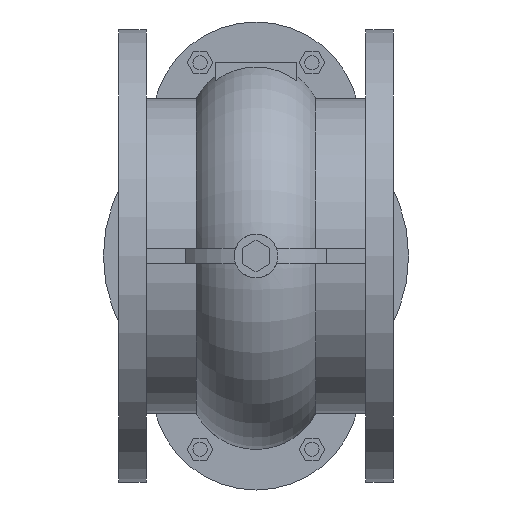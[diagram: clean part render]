
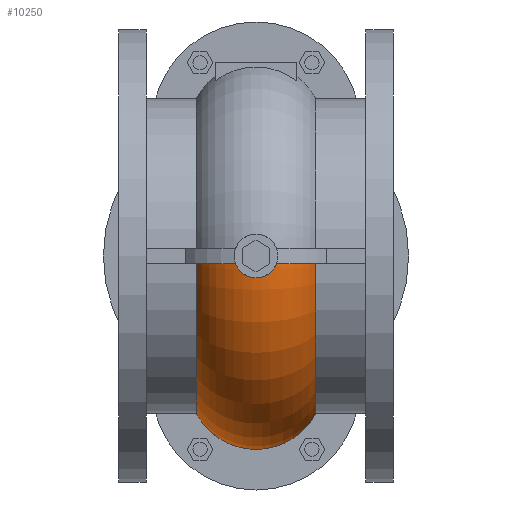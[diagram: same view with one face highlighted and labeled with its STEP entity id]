
A CAD part, front view. The second image highlights one B-rep face of the part: STEP entity #10250.
In plain terms, the highlighted toroidal (fillet/blend) face has major radius 123.5 mm and minor radius 66.5 mm.
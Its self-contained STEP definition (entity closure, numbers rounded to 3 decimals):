
#130=TOROIDAL_SURFACE('',#10864,123.5,66.5);
#280=B_SPLINE_CURVE_WITH_KNOTS('',3,(#14114,#14115,#14116,#14117,#14118,
#14119,#14120,#14121,#14122,#14123,#14124,#14125,#14126,#14127,#14128,#14129,
#14130,#14131,#14132,#14133),.UNSPECIFIED.,.F.,.F.,(4,2,2,2,2,2,2,2,2,4),
(-6.797,-6.563,-5.77,-4.996,
-4.153,-3.326,-2.489,-1.628,
-0.791,0.),.UNSPECIFIED.);
#615=CIRCLE('',#10865,66.5);
#616=CIRCLE('',#10866,155.);
#617=CIRCLE('',#10867,66.5);
#618=CIRCLE('',#10868,155.);
#619=CIRCLE('',#10869,66.5);
#809=FACE_OUTER_BOUND('',#1388,.T.);
#1388=EDGE_LOOP('',(#6541,#6542,#6543,#6544,#6545,#6546));
#4041=VERTEX_POINT('',#13918);
#4044=VERTEX_POINT('',#13926);
#4058=VERTEX_POINT('',#13967);
#4060=VERTEX_POINT('',#13979);
#4097=VERTEX_POINT('',#14108);
#4098=VERTEX_POINT('',#14110);
#5060=EDGE_CURVE('',#4058,#4041,#615,.T.);
#5061=EDGE_CURVE('',#4097,#4041,#616,.T.);
#5062=EDGE_CURVE('',#4097,#4098,#617,.T.);
#5063=EDGE_CURVE('',#4044,#4098,#618,.T.);
#5064=EDGE_CURVE('',#4044,#4060,#619,.T.);
#5065=EDGE_CURVE('',#4060,#4058,#280,.T.);
#6541=ORIENTED_EDGE('',*,*,#5060,.T.);
#6542=ORIENTED_EDGE('',*,*,#5061,.F.);
#6543=ORIENTED_EDGE('',*,*,#5062,.T.);
#6544=ORIENTED_EDGE('',*,*,#5063,.F.);
#6545=ORIENTED_EDGE('',*,*,#5064,.T.);
#6546=ORIENTED_EDGE('',*,*,#5065,.T.);
#10250=ADVANCED_FACE('',(#809),#130,.T.);
#10864=AXIS2_PLACEMENT_3D('',#14106,#11653,#11654);
#10865=AXIS2_PLACEMENT_3D('',#14107,#11655,#11656);
#10866=AXIS2_PLACEMENT_3D('',#14109,#11657,#11658);
#10867=AXIS2_PLACEMENT_3D('',#14111,#11659,#11660);
#10868=AXIS2_PLACEMENT_3D('',#14112,#11661,#11662);
#10869=AXIS2_PLACEMENT_3D('',#14113,#11663,#11664);
#11653=DIRECTION('center_axis',(1.,0.,0.));
#11654=DIRECTION('ref_axis',(0.,0.,-1.));
#11655=DIRECTION('center_axis',(0.,0.,-1.));
#11656=DIRECTION('ref_axis',(0.,-1.,0.));
#11657=DIRECTION('center_axis',(-1.,0.,0.));
#11658=DIRECTION('ref_axis',(0.,1.,0.));
#11659=DIRECTION('center_axis',(0.,-1.,0.));
#11660=DIRECTION('ref_axis',(-1.,0.,0.));
#11661=DIRECTION('center_axis',(1.,0.,0.));
#11662=DIRECTION('ref_axis',(0.,1.,0.));
#11663=DIRECTION('center_axis',(0.,0.,-1.));
#11664=DIRECTION('ref_axis',(0.,-1.,0.));
#13918=CARTESIAN_POINT('',(-397.245,-229.203,0.));
#13926=CARTESIAN_POINT('',(-280.112,-229.203,0.));
#13967=CARTESIAN_POINT('',(-360.178,-260.631,0.));
#13979=CARTESIAN_POINT('',(-317.178,-260.631,0.));
#14106=CARTESIAN_POINT('Origin',(-338.678,-74.203,0.));
#14107=CARTESIAN_POINT('Origin',(-338.678,-197.703,0.));
#14108=CARTESIAN_POINT('',(-397.245,-74.203,-155.));
#14109=CARTESIAN_POINT('Origin',(-397.245,-74.203,0.));
#14110=CARTESIAN_POINT('',(-280.112,-74.203,-155.));
#14111=CARTESIAN_POINT('Origin',(-338.678,-74.203,-123.5));
#14112=CARTESIAN_POINT('Origin',(-280.112,-74.203,0.));
#14113=CARTESIAN_POINT('Origin',(-338.678,-197.703,0.));
#14114=CARTESIAN_POINT('Ctrl Pts',(-317.178,-260.631,
0.));
#14115=CARTESIAN_POINT('Ctrl Pts',(-317.178,-260.631,
-0.778));
#14116=CARTESIAN_POINT('Ctrl Pts',(-317.221,-260.641,
-1.557));
#14117=CARTESIAN_POINT('Ctrl Pts',(-317.592,-260.725,
-4.96));
#14118=CARTESIAN_POINT('Ctrl Pts',(-318.359,-260.899,
-7.504));
#14119=CARTESIAN_POINT('Ctrl Pts',(-320.739,-261.371,
-12.125));
#14120=CARTESIAN_POINT('Ctrl Pts',(-322.313,-261.659,
-14.177));
#14121=CARTESIAN_POINT('Ctrl Pts',(-326.273,-262.24,
-17.78));
#14122=CARTESIAN_POINT('Ctrl Pts',(-328.687,-262.523,
-19.243));
#14123=CARTESIAN_POINT('Ctrl Pts',(-333.906,-262.904,
-21.144));
#14124=CARTESIAN_POINT('Ctrl Pts',(-336.65,-263.,
-21.581));
#14125=CARTESIAN_POINT('Ctrl Pts',(-342.195,-262.96,
-21.393));
#14126=CARTESIAN_POINT('Ctrl Pts',(-344.931,-262.822,
-20.758));
#14127=CARTESIAN_POINT('Ctrl Pts',(-350.078,-262.372,-18.452));
#14128=CARTESIAN_POINT('Ctrl Pts',(-352.424,-262.061,
-16.776));
#14129=CARTESIAN_POINT('Ctrl Pts',(-356.267,-261.447,
-12.672));
#14130=CARTESIAN_POINT('Ctrl Pts',(-357.755,-261.151,
-10.299));
#14131=CARTESIAN_POINT('Ctrl Pts',(-359.693,-260.745,
-5.247));
#14132=CARTESIAN_POINT('Ctrl Pts',(-360.178,-260.631,
-2.638));
#14133=CARTESIAN_POINT('Ctrl Pts',(-360.178,-260.631,
0.));
